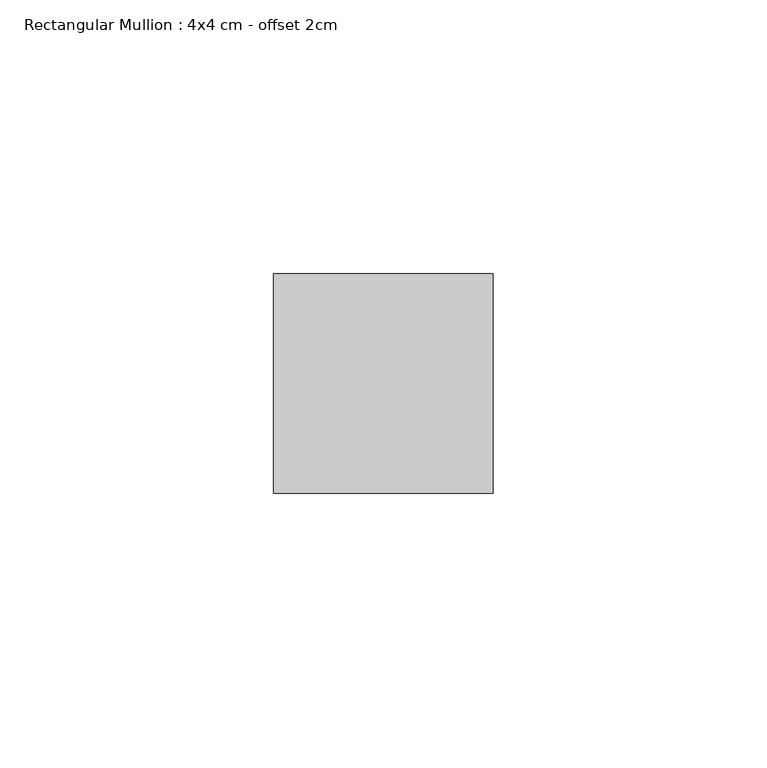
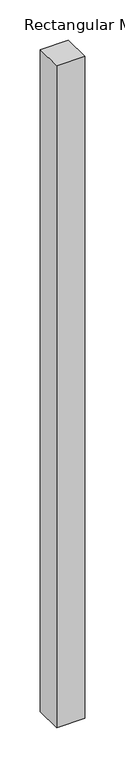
"""IFC4 building model written with IfcOpenShell, lengths in millimetres: member geometry, Rectangular Mullion : 4x4 cm - offset 2cm."""

from ifc_helpers import new_model, si_unit, frame, origin, place, context, project, spatial, polyline, outline, extrude, source, transform, mapped, element, save


def rectangular_mullion_4x4_cm_offset_2cm_2258c4c8(model_context):
    return source(origin(), model_context, "Body", "SweptSolid", [
        extrude(outline(polyline([(0.0, 40.0), (0.0, 0.0), (-40.0, 0.0), (-40.0, 40.0), (0.0, 40.0)])), frame((0.0, 0.0, -1000.0000003), z_axis=(0.0, 0.0, 1.0), x_axis=(1.0, 0.0, 0.0)), (0.0, 0.0, 1.0), 1000.0000003),
    ])


if __name__ == "__main__":
    model = new_model("IFC4")
    model_context = context("Model", 3, world=origin())
    ifc_project = project(units=[si_unit("LENGTHUNIT", "METRE", prefix="MILLI")], contexts=[model_context])
    site = spatial("IfcSite", under=ifc_project)
    building = spatial("IfcBuilding", under=site)
    placement = place(None, origin())
    rectangular_mullion_4x4_cm_offset_2cm_shape = rectangular_mullion_4x4_cm_offset_2cm_2258c4c8(model_context)
    element("IfcMember", 1, ObjectType="Rectangular Mullion : 4x4 cm - offset 2cm", at=placement, inside=building, context=model_context, shape_type="MappedRepresentation", body=[
        mapped(rectangular_mullion_4x4_cm_offset_2cm_shape, transform((0.0, 0.0, 0.0), x_axis=(1.0, 0.0, 0.0), y_axis=(0.0, 1.0, 0.0), z_axis=(0.0, 0.0, 1.0))),
    ])
    save(model, "model.ifc")
